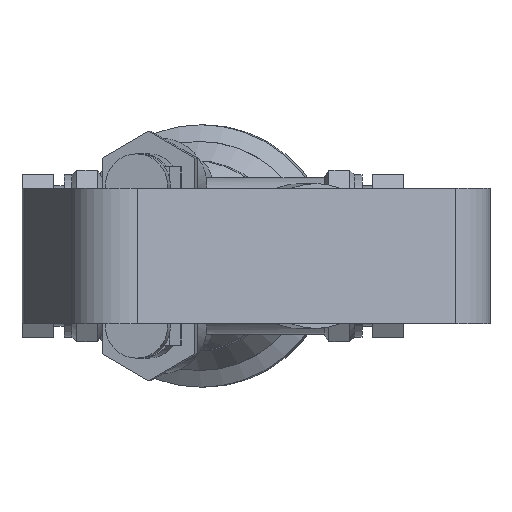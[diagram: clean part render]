
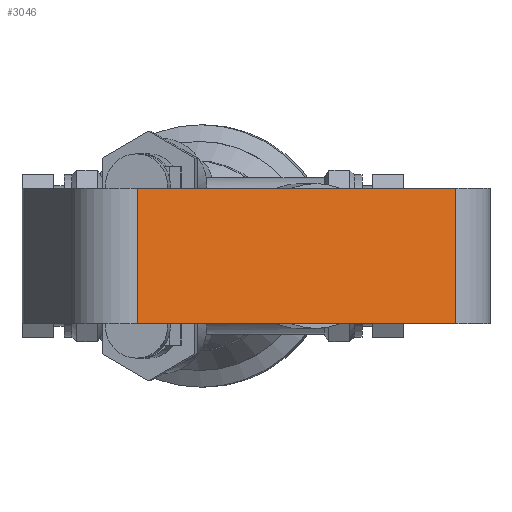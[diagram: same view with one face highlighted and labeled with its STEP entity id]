
A CAD part, front view. The second image highlights one B-rep face of the part: STEP entity #3046.
In plain terms, the highlighted planar face has unit normal (0.342, -0.94, 0).
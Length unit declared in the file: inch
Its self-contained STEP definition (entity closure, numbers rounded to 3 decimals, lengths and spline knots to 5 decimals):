
#106=PLANE('',#3371);
#243=FACE_OUTER_BOUND('',#422,.T.);
#422=EDGE_LOOP('',(#2139,#2140,#2141,#2142));
#610=LINE('',#4988,#852);
#617=LINE('',#5023,#859);
#618=LINE('',#5026,#860);
#619=LINE('',#5027,#861);
#852=VECTOR('',#3821,0.3937);
#859=VECTOR('',#3860,0.3937);
#860=VECTOR('',#3863,0.3937);
#861=VECTOR('',#3864,0.3937);
#1303=VERTEX_POINT('',#4985);
#1304=VERTEX_POINT('',#4987);
#1316=VERTEX_POINT('',#5021);
#1317=VERTEX_POINT('',#5025);
#1616=EDGE_CURVE('',#1303,#1304,#610,.T.);
#1633=EDGE_CURVE('',#1316,#1303,#617,.T.);
#1634=EDGE_CURVE('',#1317,#1316,#618,.T.);
#1635=EDGE_CURVE('',#1317,#1304,#619,.T.);
#2139=ORIENTED_EDGE('',*,*,#1633,.F.);
#2140=ORIENTED_EDGE('',*,*,#1634,.F.);
#2141=ORIENTED_EDGE('',*,*,#1635,.T.);
#2142=ORIENTED_EDGE('',*,*,#1616,.F.);
#3046=ADVANCED_FACE('',(#243),#106,.T.);
#3371=AXIS2_PLACEMENT_3D('',#5024,#3861,#3862);
#3821=DIRECTION('',(-0.94,-0.342,0.));
#3860=DIRECTION('',(0.,0.,-1.));
#3861=DIRECTION('center_axis',(0.342,-0.94,0.));
#3862=DIRECTION('ref_axis',(0.94,0.342,0.));
#3863=DIRECTION('',(0.94,0.342,0.));
#3864=DIRECTION('',(0.,0.,-1.));
#4985=CARTESIAN_POINT('',(2.32952,-4.4776,-0.65));
#4987=CARTESIAN_POINT('',(-0.72635,-5.58985,-0.65));
#4988=CARTESIAN_POINT('',(2.32952,-4.4776,-0.65));
#5021=CARTESIAN_POINT('',(2.32952,-4.4776,0.65));
#5023=CARTESIAN_POINT('',(2.32952,-4.4776,0.));
#5024=CARTESIAN_POINT('Origin',(-0.72635,-5.58985,0.));
#5025=CARTESIAN_POINT('',(-0.72635,-5.58985,0.65));
#5026=CARTESIAN_POINT('',(2.32952,-4.4776,0.65));
#5027=CARTESIAN_POINT('',(-0.72635,-5.58985,0.));
